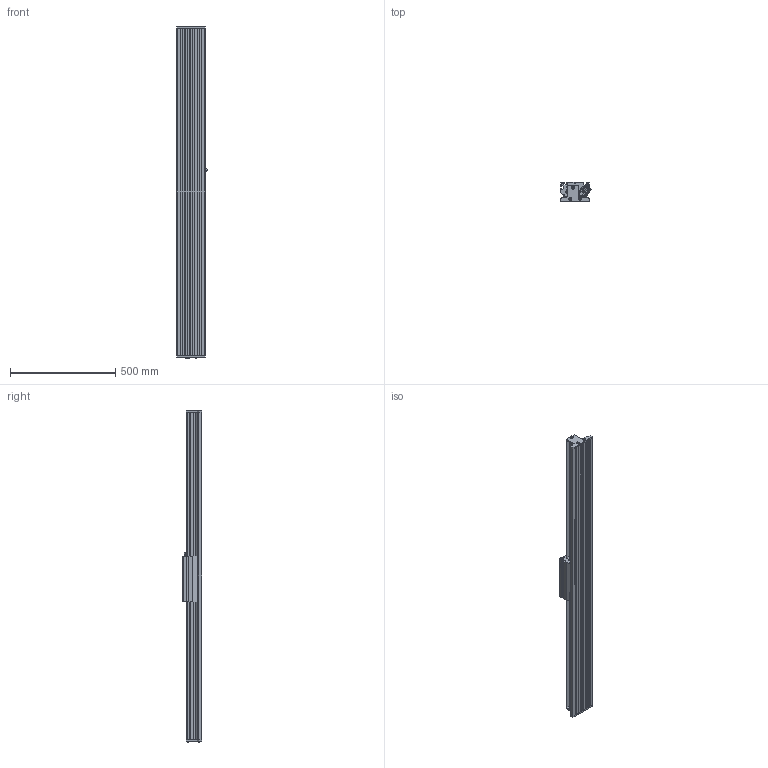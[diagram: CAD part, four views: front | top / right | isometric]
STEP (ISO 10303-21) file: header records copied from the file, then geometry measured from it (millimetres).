
FILE_DESCRIPTION (( 'STEP AP214' ), '1' );
FILE_NAME ('SINADRIVES Linear motor stage MLL20200XS-XX-1-0-ST-00-01572.STEP', '2015-07-06T09:09:15', ( 'Tecnico' ), ( '' ), 'SwSTEP 2.0', 'SolidWorks 2009', '' );
FILE_SCHEMA (( 'AUTOMOTIVE_DESIGN' ));
Length unit declared in the file: millimetre
Products named in the file (7): SINADRIVES PROFILE MLL2XXXX-1556; SINADRIVES CARRIAGE MLL20200XS-1; CARRIAGE MLL20200; Connector power+signal Y-tec 45; SINADRIVES ENDBLOCK MLL2; SINADRIVES ENDBLOCK MLL2-2; SINADRIVES Linear motor stage MLL20200XS-XX-1-0-ST-00-01572
Assembly tree (6 placements, depth 3):
  SINADRIVES Linear motor stage MLL20200XS-XX-1-0-ST-00-01572
    SINADRIVES PROFILE MLL2XXXX-1556
    SINADRIVES CARRIAGE MLL20200XS-1
      CARRIAGE MLL20200
      Connector power+signal Y-tec 45
    SINADRIVES ENDBLOCK MLL2
    SINADRIVES ENDBLOCK MLL2-2
Bounding box: 144.43 x 91 x 1580.8 mm (x, y, z)
Volume: 7466249.4 mm3; surface area: 1302612.1 mm2
Topology: 2 solids, 42 shells, 950 faces, 2640 edges, 1730 vertices
Faces by surface type: plane 445, cylinder 302, bspline 79, cone 70, torus 42, sphere 12
Entity records: 40587 total; most frequent: CARTESIAN_POINT 8656, ORIENTED_EDGE 5024, DIRECTION 4947, EDGE_CURVE 2622, AXIS2_PLACEMENT_3D 1781, VERTEX_POINT 1730, LINE 1385, VECTOR 1385
